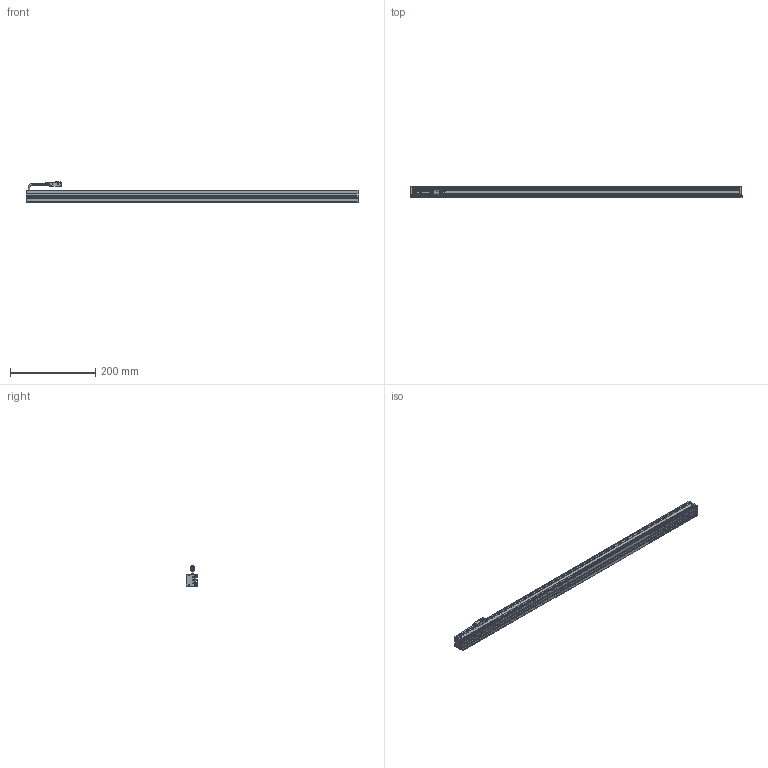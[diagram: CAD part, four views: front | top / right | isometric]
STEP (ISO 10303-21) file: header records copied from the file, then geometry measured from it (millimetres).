
FILE_DESCRIPTION (( 'STEP AP203' ), '1' );
FILE_NAME ('CK-BL77728.STEP', '2026-01-02T06:42:02', ( '' ), ( '' ), 'SwSTEP 2.0', 'SolidWorks 2022', '' );
FILE_SCHEMA (( 'CONFIG_CONTROL_DESIGN' ));
Length unit declared in the file: millimetre
Products named in the file (6): 光源线-01; CK-BL77728-003A; CK-BL77728-002A; CK-BL77728; CK-BL77728-001A; 十字沉头螺丝 M2x10
Assembly tree (11 placements, depth 2):
  CK-BL77728
    CK-BL77728-001A
    CK-BL77728-002A  x2
    CK-BL77728-003A
    光源线-01
    十字沉头螺丝 M2x10  x6
Bounding box: 777 x 27 x 47.34 mm (x, y, z)
Volume: 249711.8 mm3; surface area: 218535.8 mm2
Topology: 13 solids, 13 shells, 575 faces, 1494 edges, 950 vertices
Faces by surface type: plane 337, cylinder 172, cone 46, bspline 20
Entity records: 13997 total; most frequent: CARTESIAN_POINT 2782, ORIENTED_EDGE 2202, DIRECTION 2163, EDGE_CURVE 1101, LINE 781, VECTOR 781, VERTEX_POINT 714, AXIS2_PLACEMENT_3D 691
